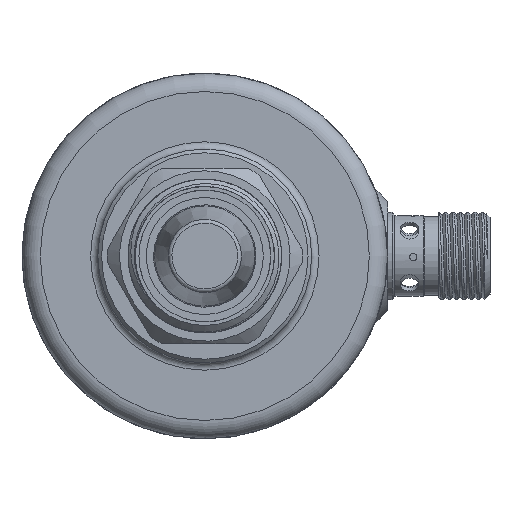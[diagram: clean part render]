
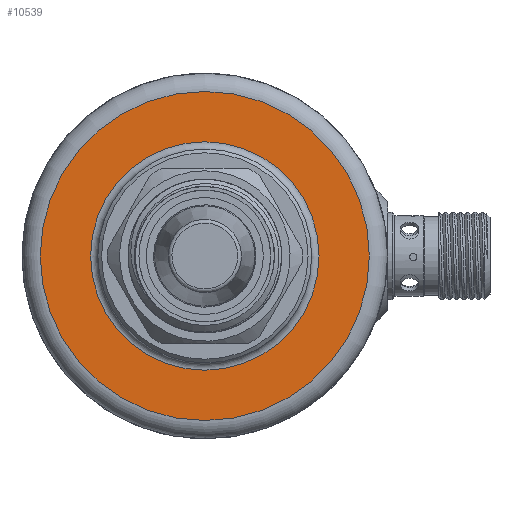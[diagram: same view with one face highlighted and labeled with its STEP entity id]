
A CAD part, front view. The second image highlights one B-rep face of the part: STEP entity #10539.
In plain terms, the highlighted planar face has unit normal (0, -1, 0) as drawn and (-1, 0, 0) by its records, which use the part's own axes.
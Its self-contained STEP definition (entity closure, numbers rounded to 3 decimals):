
#438 = CARTESIAN_POINT ( 'NONE',  ( 41., 0., -0.275 ) ) ;
#564 = EDGE_CURVE ( 'NONE', #8103, #8103, #7673, .T. ) ;
#1182 = CARTESIAN_POINT ( 'NONE',  ( 41., 0., -15.895 ) ) ;
#2238 = VERTEX_POINT ( 'NONE', #1182 ) ;
#2945 = CARTESIAN_POINT ( 'NONE',  ( 41., 0., -0.275 ) ) ;
#4226 = EDGE_CURVE ( 'NONE', #2238, #2238, #5101, .T. ) ;
#4275 = FACE_BOUND ( 'NONE', #11187, .T. ) ;
#5071 = CARTESIAN_POINT ( 'NONE',  ( 41., 0., -22.775 ) ) ;
#5101 = CIRCLE ( 'NONE', #8468, 15.62 ) ;
#5334 = CARTESIAN_POINT ( 'NONE',  ( 41., 0., -0.275 ) ) ;
#5399 = DIRECTION ( 'NONE',  ( 1., 0., 0. ) ) ;
#6607 = PLANE ( 'NONE',  #7036 ) ;
#6917 = DIRECTION ( 'NONE',  ( 0., 0., -1. ) ) ;
#7036 = AXIS2_PLACEMENT_3D ( 'NONE', #5334, #5399, #12787 ) ;
#7371 = ORIENTED_EDGE ( 'NONE', *, *, #564, .T. ) ;
#7449 = ORIENTED_EDGE ( 'NONE', *, *, #4226, .T. ) ;
#7673 = CIRCLE ( 'NONE', #13288, 22.5 ) ;
#8103 = VERTEX_POINT ( 'NONE', #5071 ) ;
#8468 = AXIS2_PLACEMENT_3D ( 'NONE', #2945, #9349, #12580 ) ;
#9349 = DIRECTION ( 'NONE',  ( 1., 0., 0. ) ) ;
#9689 = EDGE_LOOP ( 'NONE', ( #7371 ) ) ;
#10539 = ADVANCED_FACE ( 'NONE', ( #4275, #11725 ), #6607, .F. ) ;
#11187 = EDGE_LOOP ( 'NONE', ( #7449 ) ) ;
#11725 = FACE_OUTER_BOUND ( 'NONE', #9689, .T. ) ;
#12248 = DIRECTION ( 'NONE',  ( -1., 0., 0. ) ) ;
#12580 = DIRECTION ( 'NONE',  ( 0., 0., -1. ) ) ;
#12787 = DIRECTION ( 'NONE',  ( 0., 0., -1. ) ) ;
#13288 = AXIS2_PLACEMENT_3D ( 'NONE', #438, #12248, #6917 ) ;
